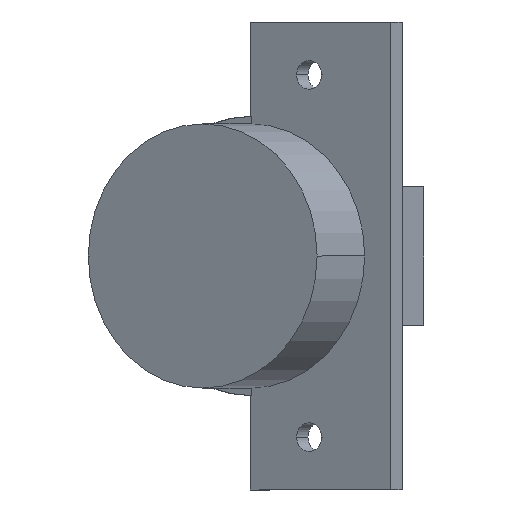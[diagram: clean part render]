
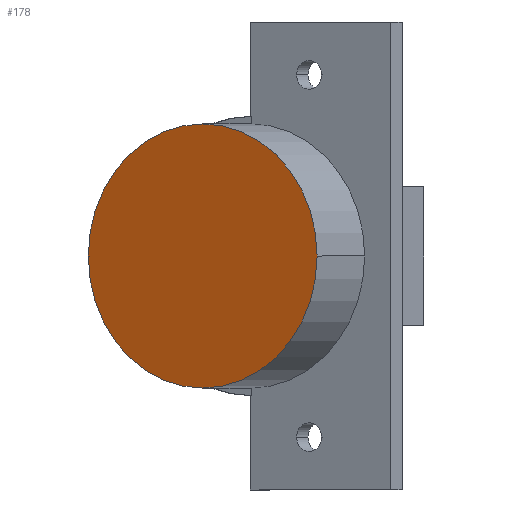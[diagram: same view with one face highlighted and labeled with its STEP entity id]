
A CAD part, front view. The second image highlights one B-rep face of the part: STEP entity #178.
In plain terms, the highlighted planar face has unit normal (-0.5, -0.866, 0).
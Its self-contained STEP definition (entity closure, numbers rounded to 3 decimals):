
#37 = VERTEX_POINT ( 'NONE', #125 ) ;
#60 = VERTEX_POINT ( 'NONE', #148 ) ;
#125 = CARTESIAN_POINT ( 'NONE',  ( -1.105, -2.162, 0. ) ) ;
#148 = CARTESIAN_POINT ( 'NONE',  ( 29.205, -19.662, 0. ) ) ;
#178 = ADVANCED_FACE ( 'NONE', ( #1356 ), #311, .T. ) ;
#310 = CARTESIAN_POINT ( 'NONE',  ( 14.05, -10.912, 0. ) ) ;
#311 = PLANE ( 'NONE',  #920 ) ;
#313 = DIRECTION ( 'NONE',  ( -0.5, -0.866, 0. ) ) ;
#314 = DIRECTION ( 'NONE',  ( 0.866, -0.5, 0. ) ) ;
#542 = CARTESIAN_POINT ( 'NONE',  ( 14.05, -10.912, 0. ) ) ;
#543 = DIRECTION ( 'NONE',  ( -0.5, -0.866, 0. ) ) ;
#544 = DIRECTION ( 'NONE',  ( 0.866, -0.5, 0. ) ) ;
#622 = CARTESIAN_POINT ( 'NONE',  ( 14.05, -10.912, 0. ) ) ;
#626 = DIRECTION ( 'NONE',  ( -0.5, -0.866, 0. ) ) ;
#627 = DIRECTION ( 'NONE',  ( 0.866, -0.5, 0. ) ) ;
#760 = AXIS2_PLACEMENT_3D ( 'NONE', #542, #543, #544 ) ;
#816 = EDGE_CURVE ( 'NONE', #37, #60, #1509, .T. ) ;
#853 = EDGE_CURVE ( 'NONE', #60, #37, #1572, .T. ) ;
#920 = AXIS2_PLACEMENT_3D ( 'NONE', #310, #313, #314 ) ;
#959 = AXIS2_PLACEMENT_3D ( 'NONE', #622, #626, #627 ) ;
#1005 = EDGE_LOOP ( 'NONE', ( #1154, #1152 ) ) ;
#1152 = ORIENTED_EDGE ( 'NONE', *, *, #853, .T. ) ;
#1154 = ORIENTED_EDGE ( 'NONE', *, *, #816, .T. ) ;
#1356 = FACE_OUTER_BOUND ( 'NONE', #1005, .T. ) ;
#1509 = CIRCLE ( 'NONE', #760, 17.5 ) ;
#1572 = CIRCLE ( 'NONE', #959, 17.5 ) ;
